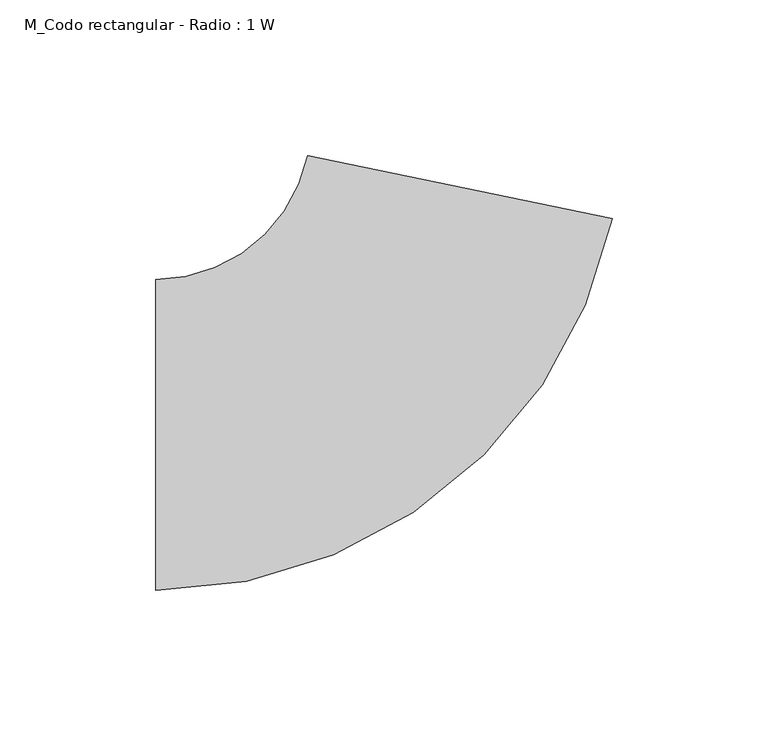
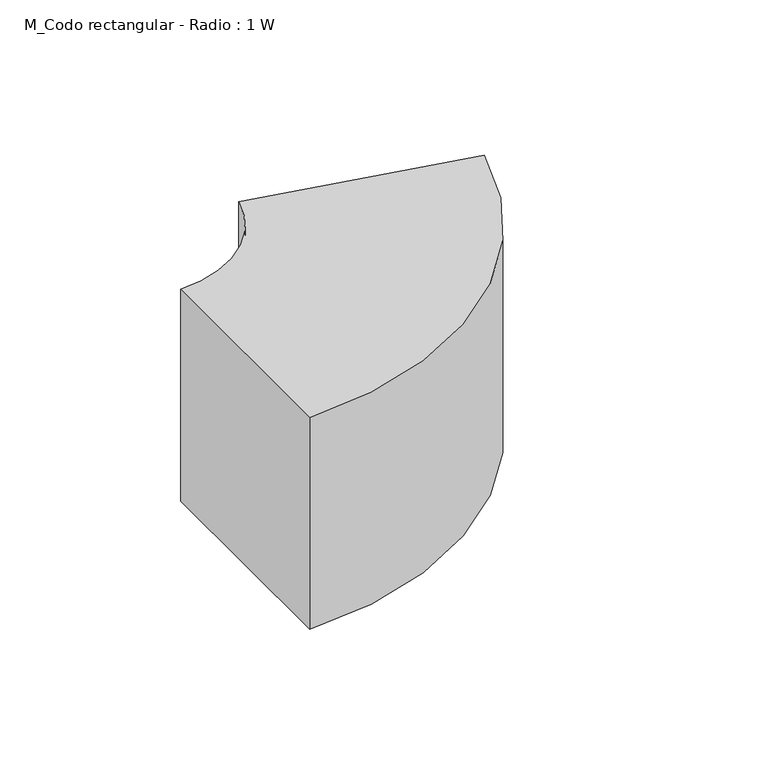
"""IFC4 building model written with IfcOpenShell, lengths in millimetres: duct fitting geometry, M_Codo rectangular - Radio : 1 W."""

from ifc_helpers import new_model, si_unit, point, frame, frame_2d, origin, place, context, project, spatial, polyline, circle_curve, trimmed, segment, composite_curve, outline, extrude, source, transform, mapped, element, save


def m_codo_rectangular_radio_1_w_b74295a4(model_context):
    return source(origin(), model_context, "Body", "SweptSolid", [
        extrude(outline(composite_curve([segment(trimmed(circle_curve(frame_2d((-81.4008891, 100.0)), 150.0), [point((65.4781731, 69.5608626))], [point((-81.4008891, -50.0))], False, "CARTESIAN"), True, "CONTINUOUS"), segment(polyline([(-81.4008891, -50.0), (-81.4008891, 50.0)]), True, "CONTINUOUS"), segment(trimmed(circle_curve(frame_2d((-81.4008891, 100.0)), 50.0), [point((-81.4008891, 50.0))], [point((-32.4412017, 89.8536209))], True, "CARTESIAN"), True, "CONTINUOUS"), segment(polyline([(-32.4412017, 89.8536209), (65.4781731, 69.5608626)]), True, "CONTINUOUS")], self_intersect=False)), frame((0.0, 0.0, -50.0), z_axis=(0.0, 0.0, 1.0), x_axis=(1.0, 0.0, 0.0)), (0.0, 0.0, 1.0), 100.0),
    ])


if __name__ == "__main__":
    model = new_model("IFC4")
    model_context = context("Model", 3, world=origin())
    ifc_project = project(units=[si_unit("LENGTHUNIT", "METRE", prefix="MILLI")], contexts=[model_context])
    site = spatial("IfcSite", under=ifc_project)
    building = spatial("IfcBuilding", under=site)
    placement = place(None, origin())
    m_codo_rectangular_radio_1_w_shape = m_codo_rectangular_radio_1_w_b74295a4(model_context)
    element("IfcDuctFitting", 1, ObjectType="M_Codo rectangular - Radio : 1 W", at=placement, inside=building, context=model_context, shape_type="MappedRepresentation", body=[
        mapped(m_codo_rectangular_radio_1_w_shape, transform((0.0, 0.0, 0.0), x_axis=(1.0, 0.0, 0.0), y_axis=(0.0, 1.0, 0.0), z_axis=(0.0, 0.0, 1.0))),
    ])
    save(model, "model.ifc")
